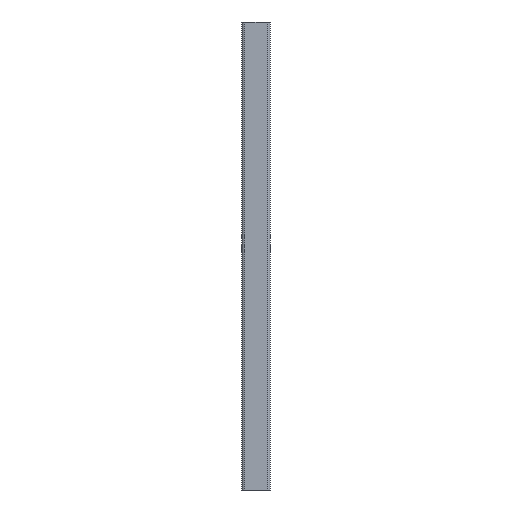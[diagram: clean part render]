
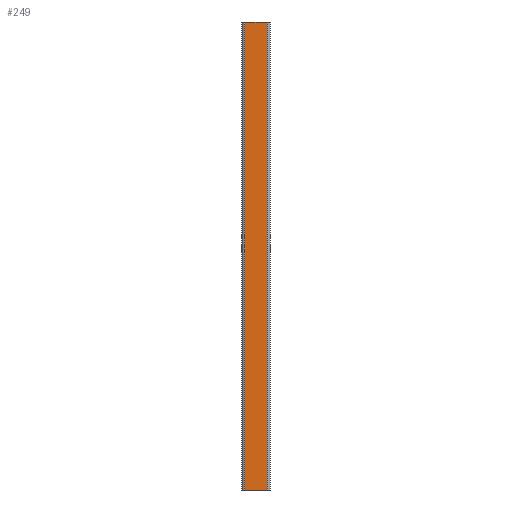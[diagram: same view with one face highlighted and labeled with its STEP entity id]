
A CAD part, front view. The second image highlights one B-rep face of the part: STEP entity #249.
In plain terms, the highlighted planar face has unit normal (0, -1, 0).
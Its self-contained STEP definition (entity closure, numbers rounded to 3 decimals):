
#42 = DIRECTION ( 'NONE',  ( 0., 0., 1. ) ) ;
#60 = DIRECTION ( 'NONE',  ( -1., 0., 0. ) ) ;
#92 = CARTESIAN_POINT ( 'NONE',  ( -12., -16., 250. ) ) ;
#95 = VECTOR ( 'NONE', #251, 1000. ) ;
#140 = PLANE ( 'NONE',  #998 ) ;
#145 = ORIENTED_EDGE ( 'NONE', *, *, #485, .T. ) ;
#224 = VECTOR ( 'NONE', #891, 1000. ) ;
#239 = CARTESIAN_POINT ( 'NONE',  ( -12., -16., -250. ) ) ;
#249 = ADVANCED_FACE ( 'NONE', ( #850 ), #140, .F. ) ;
#251 = DIRECTION ( 'NONE',  ( 1., 0., 0. ) ) ;
#254 = EDGE_CURVE ( 'NONE', #526, #270, #381, .T. ) ;
#256 = VERTEX_POINT ( 'NONE', #239 ) ;
#270 = VERTEX_POINT ( 'NONE', #486 ) ;
#283 = EDGE_CURVE ( 'NONE', #526, #256, #804, .T. ) ;
#372 = CARTESIAN_POINT ( 'NONE',  ( -12., -16., 250. ) ) ;
#381 = LINE ( 'NONE', #700, #95 ) ;
#387 = CARTESIAN_POINT ( 'NONE',  ( -15., -16., -250. ) ) ;
#432 = VECTOR ( 'NONE', #42, 1000. ) ;
#456 = CARTESIAN_POINT ( 'NONE',  ( -15., -16., 250. ) ) ;
#463 = ORIENTED_EDGE ( 'NONE', *, *, #603, .T. ) ;
#485 = EDGE_CURVE ( 'NONE', #640, #270, #909, .T. ) ;
#486 = CARTESIAN_POINT ( 'NONE',  ( 12., -16., 250. ) ) ;
#495 = VECTOR ( 'NONE', #1008, 1000. ) ;
#526 = VERTEX_POINT ( 'NONE', #372 ) ;
#603 = EDGE_CURVE ( 'NONE', #256, #640, #607, .T. ) ;
#607 = LINE ( 'NONE', #387, #495 ) ;
#640 = VERTEX_POINT ( 'NONE', #859 ) ;
#671 = CARTESIAN_POINT ( 'NONE',  ( 12., -16., 250. ) ) ;
#700 = CARTESIAN_POINT ( 'NONE',  ( -15., -16., 250. ) ) ;
#776 = DIRECTION ( 'NONE',  ( 0., 1., 0. ) ) ;
#804 = LINE ( 'NONE', #92, #224 ) ;
#850 = FACE_OUTER_BOUND ( 'NONE', #924, .T. ) ;
#859 = CARTESIAN_POINT ( 'NONE',  ( 12., -16., -250. ) ) ;
#868 = ORIENTED_EDGE ( 'NONE', *, *, #283, .T. ) ;
#891 = DIRECTION ( 'NONE',  ( 0., 0., -1. ) ) ;
#909 = LINE ( 'NONE', #671, #432 ) ;
#911 = ORIENTED_EDGE ( 'NONE', *, *, #254, .F. ) ;
#924 = EDGE_LOOP ( 'NONE', ( #911, #868, #463, #145 ) ) ;
#998 = AXIS2_PLACEMENT_3D ( 'NONE', #456, #776, #60 ) ;
#1008 = DIRECTION ( 'NONE',  ( 1., 0., 0. ) ) ;
